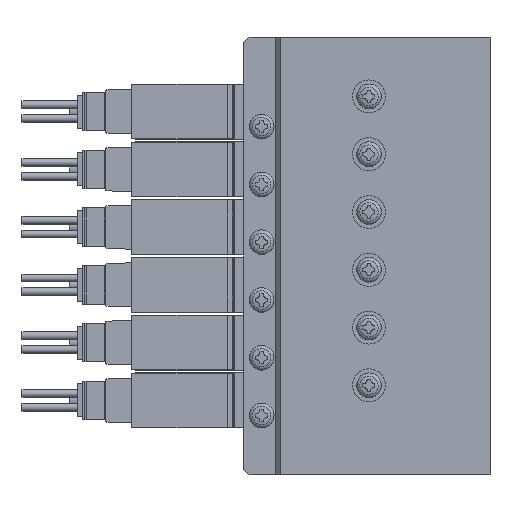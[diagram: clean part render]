
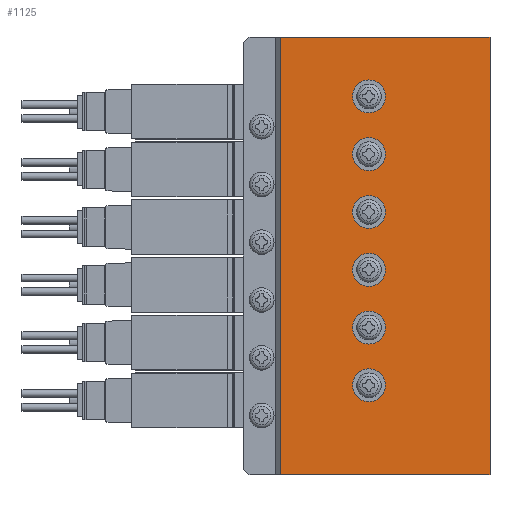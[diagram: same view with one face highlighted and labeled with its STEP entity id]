
A CAD part, left-side view. The second image highlights one B-rep face of the part: STEP entity #1125.
In plain terms, the highlighted planar face has unit normal (-1, 0, 0) as drawn and (1, 0, 0) by its records, which use the part's own axes.
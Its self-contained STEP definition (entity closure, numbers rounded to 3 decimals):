
#1125=ADVANCED_FACE('',(#2599,#2600,#2601,#2602,#2603,#2604,#2605),#2606,.F.);
#2599=FACE_OUTER_BOUND('',#4150,.T.);
#2600=FACE_BOUND('',#4151,.T.);
#2601=FACE_BOUND('',#4152,.T.);
#2602=FACE_BOUND('',#4153,.T.);
#2603=FACE_BOUND('',#4154,.T.);
#2604=FACE_BOUND('',#4155,.T.);
#2605=FACE_BOUND('',#4156,.T.);
#2606=PLANE('',#4157);
#4150=EDGE_LOOP('',(#8976,#8977,#8978,#8979));
#4151=EDGE_LOOP('',(#8980));
#4152=EDGE_LOOP('',(#8981));
#4153=EDGE_LOOP('',(#8982));
#4154=EDGE_LOOP('',(#8983));
#4155=EDGE_LOOP('',(#8984));
#4156=EDGE_LOOP('',(#8985));
#4157=AXIS2_PLACEMENT_3D('',#8986,#8987,#8988);
#8976=ORIENTED_EDGE('',*,*,#10177,.T.);
#8977=ORIENTED_EDGE('',*,*,#10492,.F.);
#8978=ORIENTED_EDGE('',*,*,#10263,.F.);
#8979=ORIENTED_EDGE('',*,*,#10755,.T.);
#8980=ORIENTED_EDGE('',*,*,#10465,.F.);
#8981=ORIENTED_EDGE('',*,*,#10724,.F.);
#8982=ORIENTED_EDGE('',*,*,#10557,.F.);
#8983=ORIENTED_EDGE('',*,*,#10756,.F.);
#8984=ORIENTED_EDGE('',*,*,#10555,.F.);
#8985=ORIENTED_EDGE('',*,*,#10717,.F.);
#8986=CARTESIAN_POINT('',(19.0,0.0,39.75));
#8987=DIRECTION('',(-1.0,0.0,0.0));
#8988=DIRECTION('',(0.0,0.0,1.0));
#10177=EDGE_CURVE('',#12339,#12337,#12340,.T.);
#10263=EDGE_CURVE('',#12500,#12502,#12503,.T.);
#10465=EDGE_CURVE('',#12872,#12872,#12873,.T.);
#10492=EDGE_CURVE('',#12502,#12337,#12919,.T.);
#10555=EDGE_CURVE('',#13025,#13025,#13026,.T.);
#10557=EDGE_CURVE('',#13029,#13029,#13030,.T.);
#10717=EDGE_CURVE('',#13280,#13280,#13281,.T.);
#10724=EDGE_CURVE('',#13290,#13290,#13291,.T.);
#10755=EDGE_CURVE('',#12500,#12339,#13333,.T.);
#10756=EDGE_CURVE('',#13334,#13334,#13335,.T.);
#12337=VERTEX_POINT('',#16176);
#12339=VERTEX_POINT('',#16179);
#12340=LINE('',#16180,#16181);
#12500=VERTEX_POINT('',#16534);
#12502=VERTEX_POINT('',#16537);
#12503=LINE('',#16538,#16539);
#12872=VERTEX_POINT('',#17532);
#12873=CIRCLE('',#17533,3.0);
#12919=LINE('',#17636,#17637);
#13025=VERTEX_POINT('',#17807);
#13026=CIRCLE('',#17808,3.0);
#13029=VERTEX_POINT('',#17811);
#13030=CIRCLE('',#17812,3.0);
#13280=VERTEX_POINT('',#18337);
#13281=CIRCLE('',#18338,3.0);
#13290=VERTEX_POINT('',#18352);
#13291=CIRCLE('',#18353,3.0);
#13333=LINE('',#18411,#18412);
#13334=VERTEX_POINT('',#18413);
#13335=CIRCLE('',#18414,3.0);
#16176=CARTESIAN_POINT('',(19.0,38.0,-39.75));
#16179=CARTESIAN_POINT('',(19.0,0.0,-39.75));
#16180=CARTESIAN_POINT('',(19.0,0.0,-39.75));
#16181=VECTOR('',#19638,1.0);
#16534=CARTESIAN_POINT('',(19.0,0.0,39.75));
#16537=CARTESIAN_POINT('',(19.0,38.0,39.75));
#16538=CARTESIAN_POINT('',(19.0,0.0,39.75));
#16539=VECTOR('',#19790,1.0);
#17532=CARTESIAN_POINT('',(19.0,22.0,20.5));
#17533=AXIS2_PLACEMENT_3D('',#20141,#20142,#20143);
#17636=CARTESIAN_POINT('',(19.0,38.0,39.75));
#17637=VECTOR('',#20189,1.0);
#17807=CARTESIAN_POINT('',(19.0,22.0,-0.5));
#17808=AXIS2_PLACEMENT_3D('',#20290,#20291,#20292);
#17811=CARTESIAN_POINT('',(19.0,22.0,-21.5));
#17812=AXIS2_PLACEMENT_3D('',#20296,#20297,#20298);
#18337=CARTESIAN_POINT('',(19.0,22.0,10.0));
#18338=AXIS2_PLACEMENT_3D('',#20571,#20572,#20573);
#18352=CARTESIAN_POINT('',(19.0,22.0,-32.0));
#18353=AXIS2_PLACEMENT_3D('',#20582,#20583,#20584);
#18411=CARTESIAN_POINT('',(19.0,0.0,39.75));
#18412=VECTOR('',#20643,1.0);
#18413=CARTESIAN_POINT('',(19.0,22.0,-11.0));
#18414=AXIS2_PLACEMENT_3D('',#20644,#20645,#20646);
#19638=DIRECTION('',(0.0,1.0,0.0));
#19790=DIRECTION('',(0.0,1.0,0.0));
#20141=CARTESIAN_POINT('',(19.0,22.0,23.5));
#20142=DIRECTION('',(1.0,0.0,0.0));
#20143=DIRECTION('',(0.0,0.0,-1.0));
#20189=DIRECTION('',(0.0,0.0,-1.0));
#20290=CARTESIAN_POINT('',(19.0,22.0,2.5));
#20291=DIRECTION('',(1.0,0.0,0.0));
#20292=DIRECTION('',(0.0,0.0,-1.0));
#20296=CARTESIAN_POINT('',(19.0,22.0,-18.5));
#20297=DIRECTION('',(1.0,0.0,0.0));
#20298=DIRECTION('',(0.0,0.0,-1.0));
#20571=CARTESIAN_POINT('',(19.0,22.0,13.0));
#20572=DIRECTION('',(1.0,0.0,0.0));
#20573=DIRECTION('',(0.0,0.0,-1.0));
#20582=CARTESIAN_POINT('',(19.0,22.0,-29.0));
#20583=DIRECTION('',(1.0,0.0,0.0));
#20584=DIRECTION('',(0.0,0.0,-1.0));
#20643=DIRECTION('',(0.0,0.0,-1.0));
#20644=CARTESIAN_POINT('',(19.0,22.0,-8.0));
#20645=DIRECTION('',(1.0,0.0,0.0));
#20646=DIRECTION('',(0.0,0.0,-1.0));
